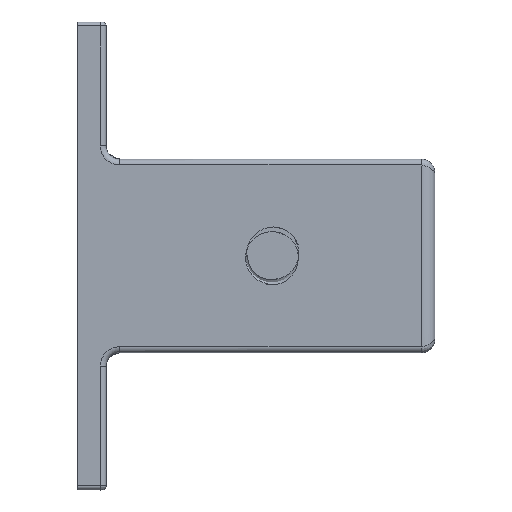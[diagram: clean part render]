
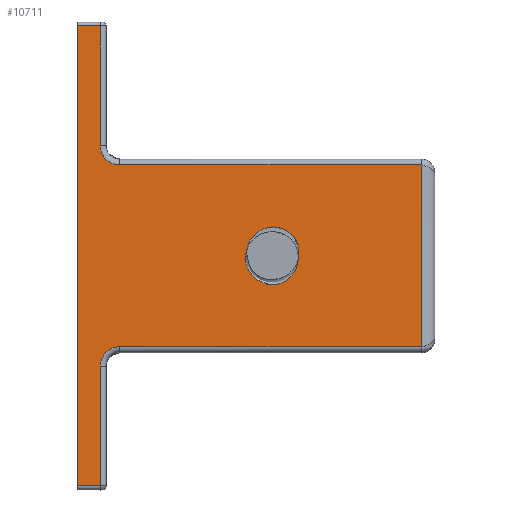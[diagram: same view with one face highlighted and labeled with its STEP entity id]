
A CAD part, top view. The second image highlights one B-rep face of the part: STEP entity #10711.
In plain terms, the highlighted planar face has unit normal (0, 0, 1) as drawn and (0, -1, 0) by its records, which use the part's own axes.
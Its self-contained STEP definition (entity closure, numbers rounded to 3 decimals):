
#5240=CARTESIAN_POINT('',(2.2,0.,7.394));
#5241=VERTEX_POINT('',#5240);
#5249=CARTESIAN_POINT('',(1.2,0.,6.394));
#5250=VERTEX_POINT('',#5249);
#5251=CARTESIAN_POINT('',(2.2,0.,7.394));
#5252=CARTESIAN_POINT('',(2.078,0.,7.394));
#5253=CARTESIAN_POINT('',(1.874,0.,7.344));
#5254=CARTESIAN_POINT('',(1.715,0.,7.273));
#5255=CARTESIAN_POINT('',(1.57,0.,7.176));
#5256=CARTESIAN_POINT('',(1.444,0.,7.055));
#5257=CARTESIAN_POINT('',(1.341,0.,6.913));
#5258=CARTESIAN_POINT('',(1.264,0.,6.756));
#5259=CARTESIAN_POINT('',(1.2,0.,6.537));
#5260=CARTESIAN_POINT('',(1.2,0.,6.394));
#5261=B_SPLINE_CURVE_WITH_KNOTS('',2,(#5251,#5252,#5253,#5254,#5255,#5256,#5257,#5258,#5259,#5260),.UNSPECIFIED.,.F.,.U.,(3,1,1,1,1,1,1,1,3),(0.,0.175,0.297,0.416,0.531,0.64,0.745,0.845,1.),.UNSPECIFIED.);
#5262=EDGE_CURVE('',#5241,#5250,#5261,.T.);
#5290=CARTESIAN_POINT('',(2.2,0.,16.794));
#5291=VERTEX_POINT('',#5290);
#5299=CARTESIAN_POINT('',(1.2,0.,17.794));
#5300=VERTEX_POINT('',#5299);
#5301=CARTESIAN_POINT('',(2.2,0.,16.794));
#5302=CARTESIAN_POINT('',(2.078,0.,16.794));
#5303=CARTESIAN_POINT('',(1.874,0.,16.844));
#5304=CARTESIAN_POINT('',(1.715,0.,16.915));
#5305=CARTESIAN_POINT('',(1.57,0.,17.012));
#5306=CARTESIAN_POINT('',(1.444,0.,17.133));
#5307=CARTESIAN_POINT('',(1.341,0.,17.275));
#5308=CARTESIAN_POINT('',(1.264,0.,17.432));
#5309=CARTESIAN_POINT('',(1.2,0.,17.651));
#5310=CARTESIAN_POINT('',(1.2,0.,17.794));
#5311=B_SPLINE_CURVE_WITH_KNOTS('',2,(#5301,#5302,#5303,#5304,#5305,#5306,#5307,#5308,#5309,#5310),.UNSPECIFIED.,.F.,.U.,(3,1,1,1,1,1,1,1,3),(0.,0.175,0.297,0.416,0.531,0.64,0.745,0.845,1.),.UNSPECIFIED.);
#5312=EDGE_CURVE('',#5291,#5300,#5311,.T.);
#5392=CARTESIAN_POINT('',(17.8,0.,7.394));
#5393=VERTEX_POINT('',#5392);
#5394=CARTESIAN_POINT('',(17.8,0.,7.394));
#5395=DIRECTION('',(-1.,0.,0.));
#5396=VECTOR('',#5395,15.6);
#5397=LINE('',#5394,#5396);
#5398=EDGE_CURVE('',#5393,#5241,#5397,.T.);
#5431=CARTESIAN_POINT('',(17.8,0.,16.794));
#5432=VERTEX_POINT('',#5431);
#5439=CARTESIAN_POINT('',(17.8,0.,16.794));
#5440=DIRECTION('',(-1.,0.,0.));
#5441=VECTOR('',#5440,15.6);
#5442=LINE('',#5439,#5441);
#5443=EDGE_CURVE('',#5432,#5291,#5442,.T.);
#5503=CARTESIAN_POINT('',(17.8,0.,16.794));
#5504=DIRECTION('',(0.,0.,-1.));
#5505=VECTOR('',#5504,9.4);
#5506=LINE('',#5503,#5505);
#5507=EDGE_CURVE('',#5432,#5393,#5506,.T.);
#5960=CARTESIAN_POINT('',(0.,0.,23.988));
#5961=VERTEX_POINT('',#5960);
#5969=CARTESIAN_POINT('',(0.,0.,0.2));
#5970=VERTEX_POINT('',#5969);
#5971=CARTESIAN_POINT('',(0.,0.,23.988));
#5972=DIRECTION('',(0.,0.,-1.));
#5973=VECTOR('',#5972,23.788);
#5974=LINE('',#5971,#5973);
#5975=EDGE_CURVE('',#5961,#5970,#5974,.T.);
#6158=CARTESIAN_POINT('',(1.2,0.,0.2));
#6159=VERTEX_POINT('',#6158);
#6160=CARTESIAN_POINT('',(1.2,0.,6.394));
#6161=DIRECTION('',(0.,0.,-1.));
#6162=VECTOR('',#6161,6.194);
#6163=LINE('',#6160,#6162);
#6164=EDGE_CURVE('',#5250,#6159,#6163,.T.);
#6222=CARTESIAN_POINT('',(1.2,0.,23.988));
#6223=VERTEX_POINT('',#6222);
#6231=CARTESIAN_POINT('',(1.2,0.,23.988));
#6232=DIRECTION('',(0.,0.,-1.));
#6233=VECTOR('',#6232,6.194);
#6234=LINE('',#6231,#6233);
#6235=EDGE_CURVE('',#6223,#5300,#6234,.T.);
#6269=CARTESIAN_POINT('',(0.,0.,23.988));
#6270=DIRECTION('',(1.,0.,0.));
#6271=VECTOR('',#6270,1.2);
#6272=LINE('',#6269,#6271);
#6273=EDGE_CURVE('',#5961,#6223,#6272,.T.);
#6298=CARTESIAN_POINT('',(1.2,0.,0.2));
#6299=DIRECTION('',(-1.,0.,0.));
#6300=VECTOR('',#6299,1.2);
#6301=LINE('',#6298,#6300);
#6302=EDGE_CURVE('',#6159,#5970,#6301,.T.);
#10560=CARTESIAN_POINT('',(10.05,0.,13.344));
#10561=VERTEX_POINT('',#10560);
#10562=CARTESIAN_POINT('',(9.327,0.,13.114));
#10563=VERTEX_POINT('',#10562);
#10564=CARTESIAN_POINT('',(10.05,0.,12.094));
#10565=DIRECTION('',(0.,0.,1.));
#10566=DIRECTION('',(0.,-1.,0.));
#10567=AXIS2_PLACEMENT_3D('',#10564,#10566,#10565);
#10568=CIRCLE('',#10567,1.25);
#10569=EDGE_CURVE('',#10561,#10563,#10568,.T.);
#10667=CARTESIAN_POINT('',(9.25,0.,12.094));
#10668=DIRECTION('',(0.,0.,-1.));
#10669=DIRECTION('',(0.,-1.,0.));
#10670=AXIS2_PLACEMENT_3D('',#10667,#10669,#10668);
#10671=PLANE('',#10670);
#10672=ORIENTED_EDGE('',*,*,#6164,.F.);
#10673=ORIENTED_EDGE('',*,*,#5262,.F.);
#10674=ORIENTED_EDGE('',*,*,#5398,.F.);
#10675=ORIENTED_EDGE('',*,*,#5507,.F.);
#10676=ORIENTED_EDGE('',*,*,#5443,.T.);
#10677=ORIENTED_EDGE('',*,*,#5312,.T.);
#10678=ORIENTED_EDGE('',*,*,#6235,.F.);
#10679=ORIENTED_EDGE('',*,*,#6273,.F.);
#10680=ORIENTED_EDGE('',*,*,#5975,.T.);
#10681=ORIENTED_EDGE('',*,*,#6302,.F.);
#10682=EDGE_LOOP('',(#10672,#10673,#10674,#10675,#10676,#10677,#10678,#10679,#10680,#10681));
#10683=FACE_OUTER_BOUND('',#10682,.T.);
#10684=ORIENTED_EDGE('',*,*,#10569,.F.);
#10685=CARTESIAN_POINT('',(10.549,0.,10.68));
#10686=VERTEX_POINT('',#10685);
#10687=CARTESIAN_POINT('',(10.549,0.,10.68));
#10688=CARTESIAN_POINT('',(10.783,0.,10.777));
#10689=CARTESIAN_POINT('',(11.41,0.,11.249));
#10690=CARTESIAN_POINT('',(11.525,0.,12.086));
#10691=CARTESIAN_POINT('',(11.184,0.,12.873));
#10692=CARTESIAN_POINT('',(10.773,0.,13.273));
#10693=CARTESIAN_POINT('',(10.229,0.,13.357));
#10694=CARTESIAN_POINT('',(10.05,0.,13.344));
#10695=B_SPLINE_CURVE_WITH_KNOTS('',3,(#10687,#10688,#10689,#10690,#10691,#10692,#10693,#10694),.UNSPECIFIED.,.F.,.U.,(4,1,2,1,4),(0.,0.333,1.,1.473,1.71),.UNSPECIFIED.);
#10696=EDGE_CURVE('',#10686,#10561,#10695,.T.);
#10697=ORIENTED_EDGE('E379',*,*,#10696,.F.);
#10698=CARTESIAN_POINT('',(9.327,0.,13.114));
#10699=CARTESIAN_POINT('',(9.107,0.,12.982));
#10700=CARTESIAN_POINT('',(8.568,0.,12.383));
#10701=CARTESIAN_POINT('',(8.698,0.,11.527));
#10702=CARTESIAN_POINT('',(9.258,0.,10.847));
#10703=CARTESIAN_POINT('',(9.793,0.,10.569));
#10704=CARTESIAN_POINT('',(10.368,0.,10.626));
#10705=CARTESIAN_POINT('',(10.549,0.,10.68));
#10706=B_SPLINE_CURVE_WITH_KNOTS('',3,(#10698,#10699,#10700,#10701,#10702,#10703,#10704,#10705),.UNSPECIFIED.,.F.,.U.,(4,1,2,1,4),(0.,0.333,1.,1.503,1.755),.UNSPECIFIED.);
#10707=EDGE_CURVE('',#10563,#10686,#10706,.T.);
#10708=ORIENTED_EDGE('E378',*,*,#10707,.F.);
#10709=EDGE_LOOP('',(#10684,#10697,#10708));
#10710=FACE_BOUND('',#10709,.T.);
#10711=ADVANCED_FACE('F6',(#10683,#10710),#10671,.T.);
